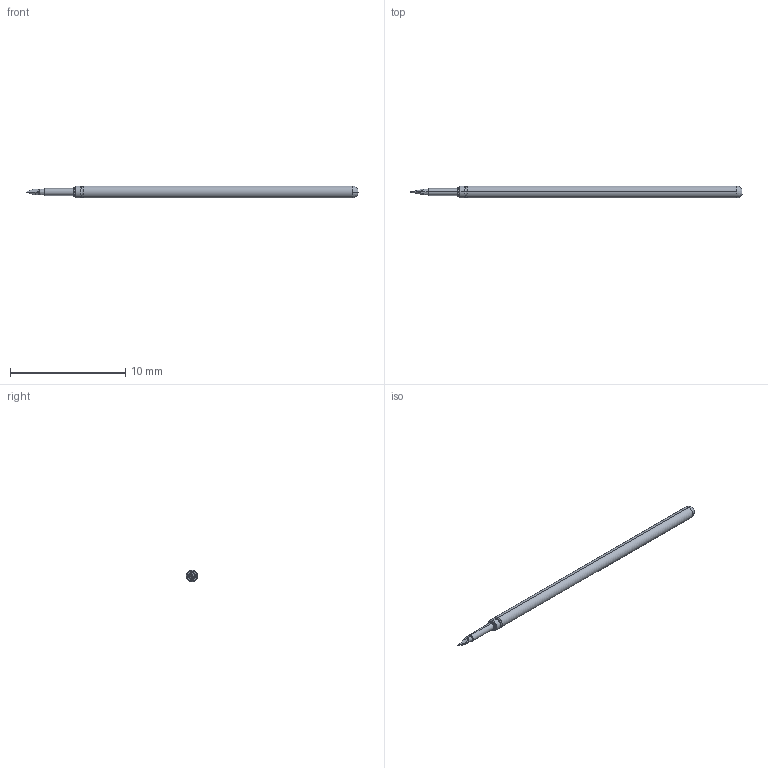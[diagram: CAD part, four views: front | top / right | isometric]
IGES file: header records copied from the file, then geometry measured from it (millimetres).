
Start section: SolidWorks IGES file using analytic representation for surfaces
Global section: file name: Z:\probe solid model mockups\Solidworks models\IGES Files\LFRE-1 IGES files\LFRE-1I40 RECD.IGS; native system: SolidWorks 2016; preprocessor: SolidWorks 2016; author: mlee; date: 180928.115951; units: inch
Bounding box: 28.78 x 1.02 x 1.02 mm (x, y, z)
Surface area: 86 mm2 (no closed solid volume)
Topology: 0 solids, 0 shells, 32 faces, 208 edges, 206 vertices
Faces by surface type: revolution 24, bspline 8
